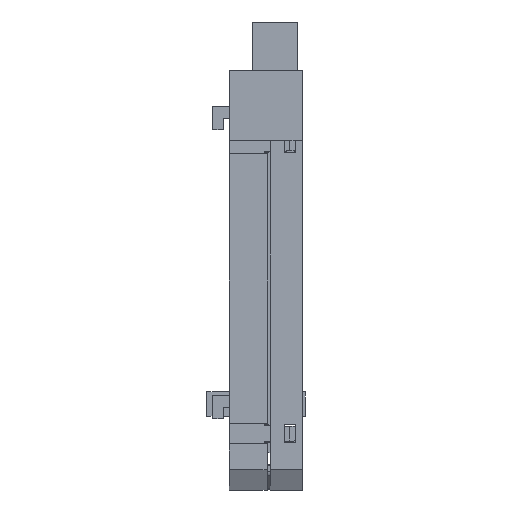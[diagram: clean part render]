
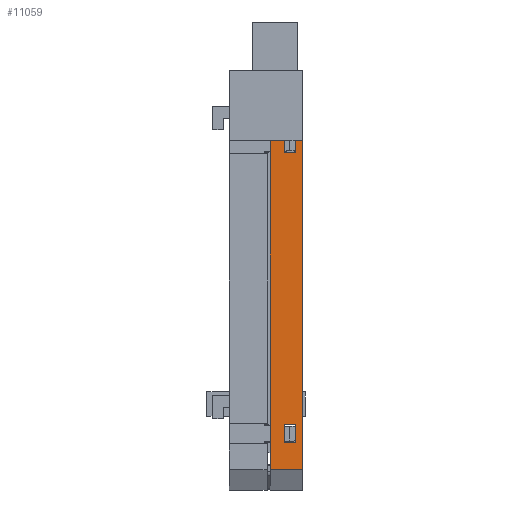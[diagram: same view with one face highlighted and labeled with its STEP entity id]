
A CAD part, front view. The second image highlights one B-rep face of the part: STEP entity #11059.
In plain terms, the highlighted planar face has unit normal (0, -1, 0).
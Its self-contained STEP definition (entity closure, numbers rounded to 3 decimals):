
#176 = ORIENTED_EDGE ( 'NONE', *, *, #18579, .T. ) ;
#381 = DIRECTION ( 'NONE',  ( 0., 0., -1. ) ) ;
#490 = ORIENTED_EDGE ( 'NONE', *, *, #6768, .T. ) ;
#1643 = CARTESIAN_POINT ( 'NONE',  ( 4.4, 0., -10.945 ) ) ;
#2348 = VERTEX_POINT ( 'NONE', #27153 ) ;
#2563 = VECTOR ( 'NONE', #4692, 1000. ) ;
#2713 = CARTESIAN_POINT ( 'NONE',  ( 5.5, 0., -65.25 ) ) ;
#2765 = EDGE_CURVE ( 'NONE', #14627, #26610, #14350, .T. ) ;
#2790 = VECTOR ( 'NONE', #381, 1000. ) ;
#2915 = ORIENTED_EDGE ( 'NONE', *, *, #16872, .T. ) ;
#3494 = ORIENTED_EDGE ( 'NONE', *, *, #4048, .T. ) ;
#3596 = VERTEX_POINT ( 'NONE', #10741 ) ;
#3899 = CARTESIAN_POINT ( 'NONE',  ( 2.4, 0., -60.645 ) ) ;
#3939 = EDGE_LOOP ( 'NONE', ( #12956, #2915, #3494, #20434 ) ) ;
#3981 = DIRECTION ( 'NONE',  ( -1., 0., 0. ) ) ;
#4048 = EDGE_CURVE ( 'NONE', #13004, #11029, #15279, .T. ) ;
#4244 = DIRECTION ( 'NONE',  ( 0., 0., 1. ) ) ;
#4286 = VERTEX_POINT ( 'NONE', #13968 ) ;
#4483 = LINE ( 'NONE', #19899, #2790 ) ;
#4692 = DIRECTION ( 'NONE',  ( -1., 0., 0. ) ) ;
#5406 = VECTOR ( 'NONE', #26692, 1000. ) ;
#5630 = LINE ( 'NONE', #21185, #6663 ) ;
#5805 = CARTESIAN_POINT ( 'NONE',  ( 5.5, 0., 0. ) ) ;
#6189 = LINE ( 'NONE', #5805, #20039 ) ;
#6489 = CARTESIAN_POINT ( 'NONE',  ( 4.4, 0., -7.845 ) ) ;
#6631 = FACE_BOUND ( 'NONE', #3939, .T. ) ;
#6663 = VECTOR ( 'NONE', #19086, 1000. ) ;
#6768 = EDGE_CURVE ( 'NONE', #18216, #14627, #27128, .T. ) ;
#6825 = VECTOR ( 'NONE', #18192, 1000. ) ;
#6932 = CARTESIAN_POINT ( 'NONE',  ( 2.4, 0., -7.845 ) ) ;
#7405 = EDGE_LOOP ( 'NONE', ( #490, #24083, #7907, #11654 ) ) ;
#7623 = EDGE_CURVE ( 'NONE', #11029, #4286, #12905, .T. ) ;
#7854 = VECTOR ( 'NONE', #3981, 1000. ) ;
#7907 = ORIENTED_EDGE ( 'NONE', *, *, #10932, .T. ) ;
#7949 = DIRECTION ( 'NONE',  ( -1., 0., 0. ) ) ;
#7951 = VECTOR ( 'NONE', #7949, 1000. ) ;
#8000 = EDGE_CURVE ( 'NONE', #4286, #18303, #11871, .T. ) ;
#8241 = CARTESIAN_POINT ( 'NONE',  ( 2.4, 0., -7.845 ) ) ;
#8327 = CARTESIAN_POINT ( 'NONE',  ( 5.5, 0., 0. ) ) ;
#8636 = VECTOR ( 'NONE', #4244, 1000. ) ;
#8959 = ORIENTED_EDGE ( 'NONE', *, *, #20760, .F. ) ;
#9027 = EDGE_CURVE ( 'NONE', #2348, #12998, #11145, .T. ) ;
#10102 = CARTESIAN_POINT ( 'NONE',  ( 2.4, 0., -10.945 ) ) ;
#10119 = DIRECTION ( 'NONE',  ( 0., 0., -1. ) ) ;
#10628 = CARTESIAN_POINT ( 'NONE',  ( 2.4, 0., -60.645 ) ) ;
#10741 = CARTESIAN_POINT ( 'NONE',  ( 5.5, 0., 0. ) ) ;
#10932 = EDGE_CURVE ( 'NONE', #26610, #26264, #5630, .T. ) ;
#10953 = EDGE_LOOP ( 'NONE', ( #27129, #8959, #11023, #176 ) ) ;
#11023 = ORIENTED_EDGE ( 'NONE', *, *, #26370, .F. ) ;
#11024 = FACE_BOUND ( 'NONE', #7405, .T. ) ;
#11029 = VERTEX_POINT ( 'NONE', #1643 ) ;
#11059 = ADVANCED_FACE ( 'NONE', ( #6631, #11024, #21533 ), #15001, .F. ) ;
#11145 = LINE ( 'NONE', #26777, #5406 ) ;
#11245 = CARTESIAN_POINT ( 'NONE',  ( 4.4, 0., -60.645 ) ) ;
#11654 = ORIENTED_EDGE ( 'NONE', *, *, #13156, .T. ) ;
#11679 = CARTESIAN_POINT ( 'NONE',  ( 5.5, 0., -65.25 ) ) ;
#11871 = LINE ( 'NONE', #20479, #6825 ) ;
#12321 = CARTESIAN_POINT ( 'NONE',  ( 4.4, 0., -57.545 ) ) ;
#12846 = VERTEX_POINT ( 'NONE', #11679 ) ;
#12905 = LINE ( 'NONE', #10102, #7854 ) ;
#12956 = ORIENTED_EDGE ( 'NONE', *, *, #8000, .T. ) ;
#12998 = VERTEX_POINT ( 'NONE', #17239 ) ;
#13004 = VERTEX_POINT ( 'NONE', #6489 ) ;
#13156 = EDGE_CURVE ( 'NONE', #26264, #18216, #4483, .T. ) ;
#13968 = CARTESIAN_POINT ( 'NONE',  ( 2.4, 0., -10.945 ) ) ;
#14072 = AXIS2_PLACEMENT_3D ( 'NONE', #23725, #19465, #25784 ) ;
#14350 = LINE ( 'NONE', #17241, #8636 ) ;
#14627 = VERTEX_POINT ( 'NONE', #3899 ) ;
#14705 = LINE ( 'NONE', #2713, #2563 ) ;
#14950 = CARTESIAN_POINT ( 'NONE',  ( 4.4, 0., -10.945 ) ) ;
#15001 = PLANE ( 'NONE',  #14072 ) ;
#15129 = LINE ( 'NONE', #8241, #16483 ) ;
#15279 = LINE ( 'NONE', #14950, #20038 ) ;
#16483 = VECTOR ( 'NONE', #16710, 1000. ) ;
#16710 = DIRECTION ( 'NONE',  ( 1., 0., 0. ) ) ;
#16872 = EDGE_CURVE ( 'NONE', #18303, #13004, #15129, .T. ) ;
#17239 = CARTESIAN_POINT ( 'NONE',  ( 0., 0., -65.25 ) ) ;
#17241 = CARTESIAN_POINT ( 'NONE',  ( 2.4, 0., -60.645 ) ) ;
#18192 = DIRECTION ( 'NONE',  ( 0., 0., 1. ) ) ;
#18216 = VERTEX_POINT ( 'NONE', #11245 ) ;
#18303 = VERTEX_POINT ( 'NONE', #6932 ) ;
#18579 = EDGE_CURVE ( 'NONE', #3596, #2348, #25867, .T. ) ;
#19086 = DIRECTION ( 'NONE',  ( 1., 0., 0. ) ) ;
#19465 = DIRECTION ( 'NONE',  ( 0., 1., 0. ) ) ;
#19899 = CARTESIAN_POINT ( 'NONE',  ( 4.4, 0., -60.645 ) ) ;
#20038 = VECTOR ( 'NONE', #10119, 1000. ) ;
#20039 = VECTOR ( 'NONE', #20942, 1000. ) ;
#20434 = ORIENTED_EDGE ( 'NONE', *, *, #7623, .T. ) ;
#20479 = CARTESIAN_POINT ( 'NONE',  ( 2.4, 0., -10.945 ) ) ;
#20760 = EDGE_CURVE ( 'NONE', #12846, #12998, #14705, .T. ) ;
#20942 = DIRECTION ( 'NONE',  ( 0., 0., -1. ) ) ;
#21185 = CARTESIAN_POINT ( 'NONE',  ( 2.4, 0., -57.545 ) ) ;
#21533 = FACE_OUTER_BOUND ( 'NONE', #10953, .T. ) ;
#22402 = CARTESIAN_POINT ( 'NONE',  ( 2.4, 0., -57.545 ) ) ;
#23725 = CARTESIAN_POINT ( 'NONE',  ( 5.5, 0., 0. ) ) ;
#24083 = ORIENTED_EDGE ( 'NONE', *, *, #2765, .T. ) ;
#25784 = DIRECTION ( 'NONE',  ( 0., 0., 1. ) ) ;
#25867 = LINE ( 'NONE', #8327, #7951 ) ;
#26264 = VERTEX_POINT ( 'NONE', #12321 ) ;
#26370 = EDGE_CURVE ( 'NONE', #3596, #12846, #6189, .T. ) ;
#26610 = VERTEX_POINT ( 'NONE', #22402 ) ;
#26692 = DIRECTION ( 'NONE',  ( 0., 0., -1. ) ) ;
#26777 = CARTESIAN_POINT ( 'NONE',  ( 0., 0., 0. ) ) ;
#27101 = VECTOR ( 'NONE', #27624, 1000. ) ;
#27128 = LINE ( 'NONE', #10628, #27101 ) ;
#27129 = ORIENTED_EDGE ( 'NONE', *, *, #9027, .T. ) ;
#27153 = CARTESIAN_POINT ( 'NONE',  ( 0., 0., 0. ) ) ;
#27624 = DIRECTION ( 'NONE',  ( -1., 0., 0. ) ) ;
